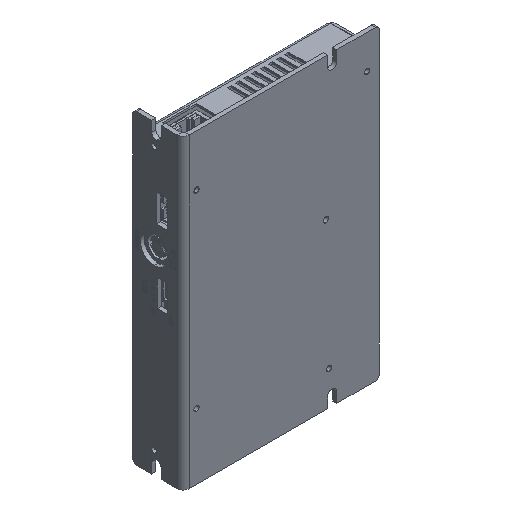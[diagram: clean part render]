
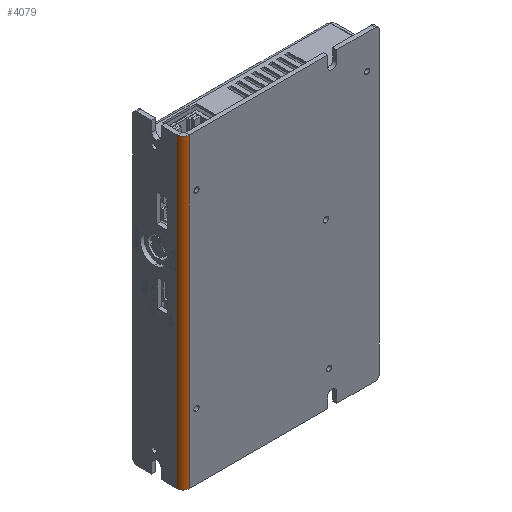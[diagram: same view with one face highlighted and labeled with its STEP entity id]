
A CAD part, isometric view. The second image highlights one B-rep face of the part: STEP entity #4079.
In plain terms, the highlighted cylindrical face has radius 3 mm (diameter 6 mm), a partial arc.
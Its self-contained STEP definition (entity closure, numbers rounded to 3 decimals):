
#1497 = ORIENTED_EDGE ( 'NONE', *, *, #60794, .T. ) ;
#3451 = VERTEX_POINT ( 'NONE', #61882 ) ;
#4079 = ADVANCED_FACE ( 'NONE', ( #84517 ), #12736, .T. ) ;
#5214 = DIRECTION ( 'NONE',  ( -1., 0., 0. ) ) ;
#6487 = CARTESIAN_POINT ( 'NONE',  ( 1., -2., 74.5 ) ) ;
#9360 = CIRCLE ( 'NONE', #19955, 3. ) ;
#12736 = CYLINDRICAL_SURFACE ( 'NONE', #16924, 3. ) ;
#15034 = VECTOR ( 'NONE', #43947, 1000. ) ;
#16924 = AXIS2_PLACEMENT_3D ( 'NONE', #19382, #70194, #5214 ) ;
#17035 = VERTEX_POINT ( 'NONE', #17323 ) ;
#17323 = CARTESIAN_POINT ( 'NONE',  ( 1., -2., 74.5 ) ) ;
#18404 = CIRCLE ( 'NONE', #33653, 3. ) ;
#19183 = DIRECTION ( 'NONE',  ( 0., 0., -1. ) ) ;
#19382 = CARTESIAN_POINT ( 'NONE',  ( 1., 1., 74.5 ) ) ;
#19749 = VERTEX_POINT ( 'NONE', #79552 ) ;
#19955 = AXIS2_PLACEMENT_3D ( 'NONE', #73855, #37765, #30664 ) ;
#21769 = EDGE_LOOP ( 'NONE', ( #87305, #83912, #77308, #1497 ) ) ;
#22563 = LINE ( 'NONE', #6487, #15034 ) ;
#28998 = EDGE_CURVE ( 'NONE', #19749, #17035, #18404, .T. ) ;
#30664 = DIRECTION ( 'NONE',  ( 1., 0., 0. ) ) ;
#33056 = CARTESIAN_POINT ( 'NONE',  ( 1., -2., -74.5 ) ) ;
#33653 = AXIS2_PLACEMENT_3D ( 'NONE', #77304, #34115, #42603 ) ;
#34115 = DIRECTION ( 'NONE',  ( 0., 0., 1. ) ) ;
#37765 = DIRECTION ( 'NONE',  ( 0., 0., 1. ) ) ;
#41101 = VERTEX_POINT ( 'NONE', #33056 ) ;
#42603 = DIRECTION ( 'NONE',  ( 1., 0., 0. ) ) ;
#43292 = EDGE_CURVE ( 'NONE', #17035, #41101, #22563, .T. ) ;
#43947 = DIRECTION ( 'NONE',  ( 0., 0., -1. ) ) ;
#45209 = EDGE_CURVE ( 'NONE', #3451, #41101, #9360, .T. ) ;
#60794 = EDGE_CURVE ( 'NONE', #19749, #3451, #61925, .T. ) ;
#61882 = CARTESIAN_POINT ( 'NONE',  ( -2., 1., -74.5 ) ) ;
#61925 = LINE ( 'NONE', #69531, #74672 ) ;
#69531 = CARTESIAN_POINT ( 'NONE',  ( -2., 1., 74.5 ) ) ;
#70194 = DIRECTION ( 'NONE',  ( 0., 0., -1. ) ) ;
#73855 = CARTESIAN_POINT ( 'NONE',  ( 1., 1., -74.5 ) ) ;
#74672 = VECTOR ( 'NONE', #19183, 1000. ) ;
#77304 = CARTESIAN_POINT ( 'NONE',  ( 1., 1., 74.5 ) ) ;
#77308 = ORIENTED_EDGE ( 'NONE', *, *, #28998, .F. ) ;
#79552 = CARTESIAN_POINT ( 'NONE',  ( -2., 1., 74.5 ) ) ;
#83912 = ORIENTED_EDGE ( 'NONE', *, *, #43292, .F. ) ;
#84517 = FACE_OUTER_BOUND ( 'NONE', #21769, .T. ) ;
#87305 = ORIENTED_EDGE ( 'NONE', *, *, #45209, .T. ) ;
